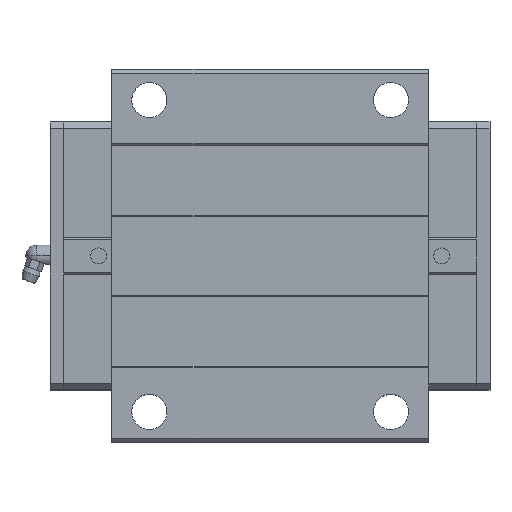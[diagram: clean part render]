
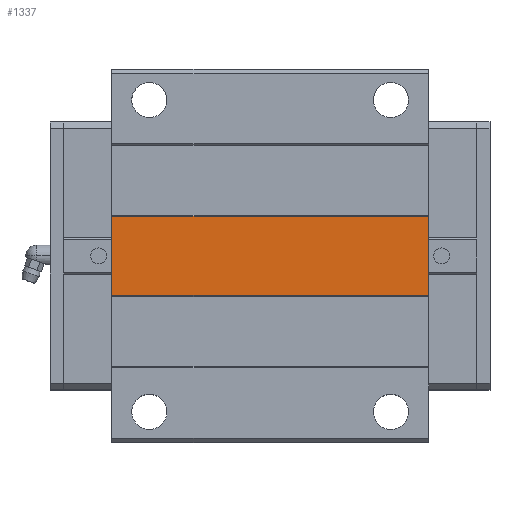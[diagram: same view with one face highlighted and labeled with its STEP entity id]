
A CAD part, top view. The second image highlights one B-rep face of the part: STEP entity #1337.
In plain terms, the highlighted planar face has unit normal (0, 0, 1).
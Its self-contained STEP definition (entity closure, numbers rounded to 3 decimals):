
#1276=CARTESIAN_POINT('POINT93',(172.2,-18.,
   75.));
#1277=VERTEX_POINT('VERTEX93',#1276);
#1284=CARTESIAN_POINT('POINT94',(28.,-18.,
   75.));
#1285=VERTEX_POINT('VERTEX94',#1284);
#1286=CARTESIAN_POINT('POS129',(28.,-18.,
   75.));
#1287=DIRECTION('DIR187',(1.,0.,0.));
#1288=VECTOR('VEC71',#1287,1.);
#1289=LINE('STRAIGHT71',#1286,#1288);
#1290=EDGE_CURVE('EDGE126',#1285,#1277,#1289,.T.);
#1307=CARTESIAN_POINT('POINT95',(172.2,18.,75.));
#1308=VERTEX_POINT('VERTEX95',#1307);
#1309=CARTESIAN_POINT('POS132',(172.2,0.,75.));
#1310=DIRECTION('DIR191',(0.,1.,0.));
#1311=VECTOR('VEC73',#1310,1.);
#1312=LINE('STRAIGHT73',#1309,#1311);
#1313=EDGE_CURVE('EDGE128',#1277,#1308,#1312,.T.);
#1314=ORIENTED_EDGE('COEDGE195',*,*,#1313,.T.);
#1315=CARTESIAN_POINT('POINT96',(28.,18.,75.));
#1316=VERTEX_POINT('VERTEX96',#1315);
#1317=CARTESIAN_POINT('POS133',(28.,18.,75.));
#1318=DIRECTION('DIR192',(1.,0.,0.));
#1319=VECTOR('VEC74',#1318,1.);
#1320=LINE('STRAIGHT74',#1317,#1319);
#1321=EDGE_CURVE('EDGE129',#1316,#1308,#1320,.T.);
#1322=ORIENTED_EDGE('COEDGE196',*,*,#1321,.F.);
#1323=CARTESIAN_POINT('POS134',(28.,0.,75.));
#1324=DIRECTION('DIR193',(0.,1.,0.));
#1325=VECTOR('VEC75',#1324,1.);
#1326=LINE('STRAIGHT75',#1323,#1325);
#1327=EDGE_CURVE('EDGE130',#1285,#1316,#1326,.T.);
#1328=ORIENTED_EDGE('COEDGE197',*,*,#1327,.F.);
#1329=ORIENTED_EDGE('COEDGE198',*,*,#1290,.T.);
#1330=EDGE_LOOP('NONE',(#1314,#1322,#1328,#1329));
#1331=FACE_BOUND('LOOP1',#1330,.T.);
#1332=CARTESIAN_POINT('POS135',(28.,0.,75.));
#1333=DIRECTION('DIR194',(0.,0.,1.));
#1334=DIRECTION('DIR195',(1.,0.,0.));
#1335=AXIS2_PLACEMENT_3D('AXIS60',#1332,#1333,#1334);
#1336=PLANE('PLANE17',#1335);
#1337=ADVANCED_FACE('FACE38',(#1331),#1336,.T.);
